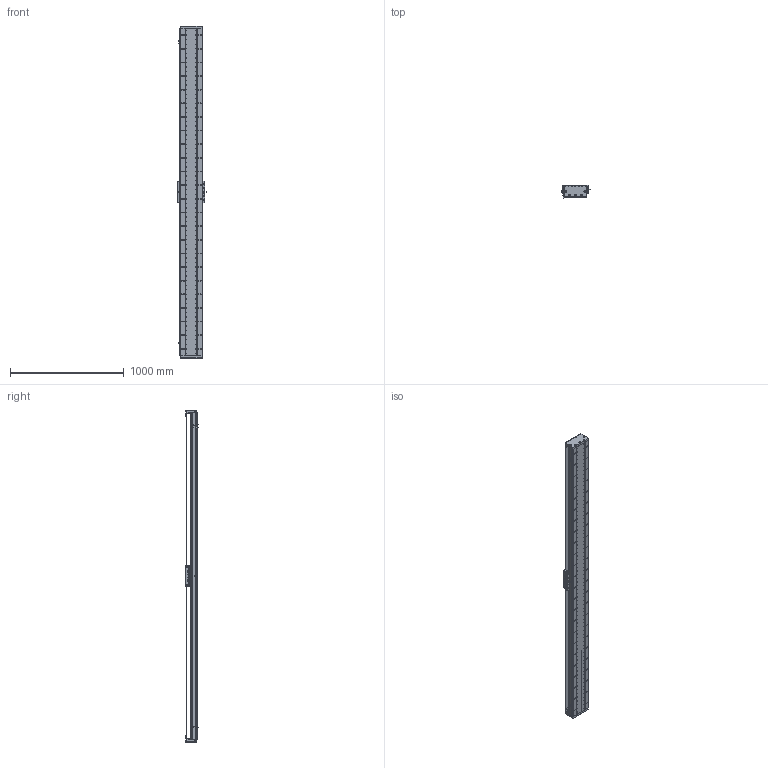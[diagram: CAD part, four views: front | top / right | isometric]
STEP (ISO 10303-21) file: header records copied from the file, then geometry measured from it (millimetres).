
FILE_DESCRIPTION (( 'STEP AP203' ), '1' );
FILE_NAME ('DA-C195-C2-T2640-C010-0.2 眻盄萇儂.STEP', '2025-08-15T01:14:23', ( '' ), ( '' ), 'SwSTEP 2.0', 'SolidWorks 2019', '' );
FILE_SCHEMA (( 'CONFIG_CONTROL_DESIGN' ));
Length unit declared in the file: millimetre
Products named in the file (15): IU-CU195-L 菁釱絳寢; MS200 棠掑喜S315-T1740; LMT黍杅芛; 葩璃 DA95-GT-T-00; PM-T45ㄗ侂狟ㄘ; DA195詩湍郪璃; DA-C195-GD-DB-H-00 傷啣; DA95-HXJ-00 遣喳砎蝶; DA195詩湍嶺輸; CU195-C2賑輸-俋楷; DA195詩湍裔啣; DA195詩湍菜輸; DA-C195-C2-T2640-C010-0.2 眻盄萇儂; DA165-GYP-00 光电感应片(默认); IU-CU195-L-00 菁釱(L2880)
Assembly tree (29 placements, depth 3):
  DA-C195-C2-T2640-C010-0.2 眻盄萇儂
    DA195詩湍郪璃
      DA195詩湍菜輸  x2
      DA195詩湍裔啣
      DA195詩湍嶺輸  x2
      DA95-HXJ-00 遣喳砎蝶  x8
      DA-C195-GD-DB-H-00 傷啣  x2
    IU-CU195-L 菁釱絳寢
      IU-CU195-L-00 菁釱(L2880)
      葩璃 DA95-GT-T-00  x4
    LMT黍杅芛
    MS200 棠掑喜S315-T1740
    PM-T45ㄗ侂狟ㄘ  x3
    DA165-GYP-00 光电感应片(默认)
    CU195-C2賑輸-俋楷
Bounding box: 248 x 115.45 x 2920 mm (x, y, z)
Volume: 16561029 mm3; surface area: 4916937.2 mm2
Topology: 66 solids, 130 shells, 4502 faces, 12691 edges, 8007 vertices
Faces by surface type: cylinder 2479, plane 1405, cone 530, torus 52, sphere 36
Entity records: 146417 total; most frequent: CARTESIAN_POINT 40426, ORIENTED_EDGE 22266, DIRECTION 21272, EDGE_CURVE 11133, AXIS2_PLACEMENT_3D 8001, VERTEX_POINT 7209, LINE 5270, VECTOR 5270
